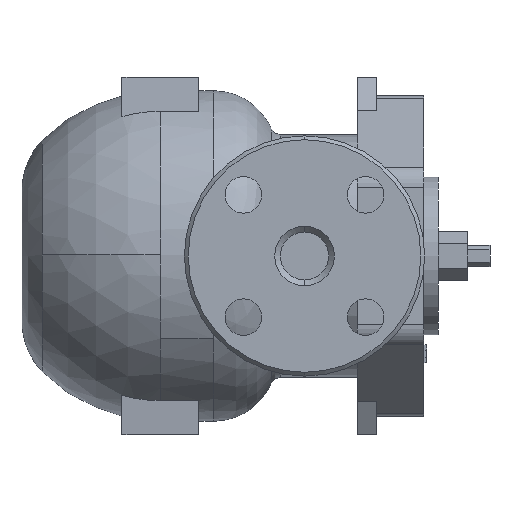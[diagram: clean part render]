
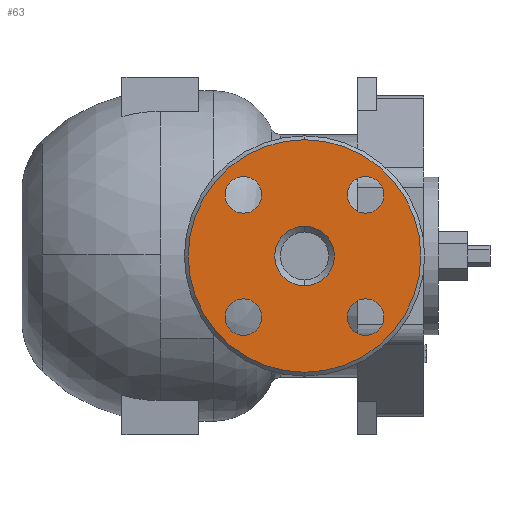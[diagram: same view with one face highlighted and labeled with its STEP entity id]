
A CAD part, left-side view. The second image highlights one B-rep face of the part: STEP entity #63.
In plain terms, the highlighted planar face has unit normal (-1, 0, 0).
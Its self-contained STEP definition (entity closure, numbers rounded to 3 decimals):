
#63=ADVANCED_FACE('',(#438,#439,#440,#441,#442,#443),#437,.T.);
#437=PLANE('',#1989);
#438=FACE_OUTER_BOUND('',#1990,.T.);
#439=FACE_BOUND('',#1991,.T.);
#440=FACE_BOUND('',#1992,.T.);
#441=FACE_BOUND('',#1993,.T.);
#442=FACE_BOUND('',#1994,.T.);
#443=FACE_BOUND('',#1995,.T.);
#1986=CARTESIAN_POINT('',(-135.,-114.789,-70.5));
#1987=DIRECTION('',(-1.,0.,0.));
#1988=DIRECTION('',(0.,0.,1.));
#1989=AXIS2_PLACEMENT_3D('',#1986,#1987,#1988);
#1990=EDGE_LOOP('',(#3440,#3441));
#1991=EDGE_LOOP('',(#3442,#3443));
#1992=EDGE_LOOP('',(#3444,#3445));
#1993=EDGE_LOOP('',(#3446,#3447));
#1994=EDGE_LOOP('',(#3448,#3449));
#1995=EDGE_LOOP('',(#3450,#3451));
#3440=ORIENTED_EDGE('',*,*,#4247,.T.);
#3441=ORIENTED_EDGE('',*,*,#4248,.T.);
#3442=ORIENTED_EDGE('',*,*,#4249,.T.);
#3443=ORIENTED_EDGE('',*,*,#4250,.T.);
#3444=ORIENTED_EDGE('',*,*,#4251,.T.);
#3445=ORIENTED_EDGE('',*,*,#4252,.T.);
#3446=ORIENTED_EDGE('',*,*,#4253,.T.);
#3447=ORIENTED_EDGE('',*,*,#4254,.T.);
#3448=ORIENTED_EDGE('',*,*,#4255,.T.);
#3449=ORIENTED_EDGE('',*,*,#4256,.T.);
#3450=ORIENTED_EDGE('',*,*,#4257,.T.);
#3451=ORIENTED_EDGE('',*,*,#4258,.T.);
#4247=EDGE_CURVE('',#5175,#5176,#5177,.T.);
#4248=EDGE_CURVE('',#5176,#5175,#5183,.T.);
#4249=EDGE_CURVE('',#5189,#5190,#5191,.T.);
#4250=EDGE_CURVE('',#5190,#5189,#5197,.T.);
#4251=EDGE_CURVE('',#5203,#5204,#5205,.T.);
#4252=EDGE_CURVE('',#5204,#5203,#5211,.T.);
#4253=EDGE_CURVE('',#5217,#5218,#5219,.T.);
#4254=EDGE_CURVE('',#5218,#5217,#5225,.T.);
#4255=EDGE_CURVE('',#5231,#5232,#5233,.T.);
#4256=EDGE_CURVE('',#5232,#5231,#5239,.T.);
#4257=EDGE_CURVE('',#5245,#5246,#5247,.T.);
#4258=EDGE_CURVE('',#5246,#5245,#5253,.T.);
#5175=VERTEX_POINT('',#7798);
#5176=VERTEX_POINT('',#7799);
#5177=CIRCLE('',#7803,60.5);
#5183=CIRCLE('',#7807,60.5);
#5189=VERTEX_POINT('',#7808);
#5190=VERTEX_POINT('',#7809);
#5191=CIRCLE('',#7813,9.5);
#5197=CIRCLE('',#7817,9.5);
#5203=VERTEX_POINT('',#7818);
#5204=VERTEX_POINT('',#7819);
#5205=CIRCLE('',#7823,9.5);
#5211=CIRCLE('',#7827,9.5);
#5217=VERTEX_POINT('',#7828);
#5218=VERTEX_POINT('',#7829);
#5219=CIRCLE('',#7833,15.5);
#5225=CIRCLE('',#7837,15.5);
#5231=VERTEX_POINT('',#7838);
#5232=VERTEX_POINT('',#7839);
#5233=CIRCLE('',#7843,9.5);
#5239=CIRCLE('',#7847,9.5);
#5245=VERTEX_POINT('',#7848);
#5246=VERTEX_POINT('',#7849);
#5247=CIRCLE('',#7853,9.5);
#5253=CIRCLE('',#7857,9.5);
#7798=CARTESIAN_POINT('',(-135.,0.,-60.5));
#7799=CARTESIAN_POINT('',(-135.,0.,60.5));
#7800=CARTESIAN_POINT('',(-135.,0.,0.));
#7801=DIRECTION('',(-1.,0.,0.));
#7802=DIRECTION('',(0.,0.,-1.));
#7803=AXIS2_PLACEMENT_3D('',#7800,#7801,#7802);
#7804=CARTESIAN_POINT('',(-135.,0.,0.));
#7805=DIRECTION('',(-1.,0.,0.));
#7806=DIRECTION('',(0.,0.,-1.));
#7807=AXIS2_PLACEMENT_3D('',#7804,#7805,#7806);
#7808=CARTESIAN_POINT('',(-135.,31.82,22.32));
#7809=CARTESIAN_POINT('',(-135.,31.82,41.32));
#7810=CARTESIAN_POINT('',(-135.,31.82,31.82));
#7811=DIRECTION('',(1.,0.,0.));
#7812=DIRECTION('',(0.,0.,-1.));
#7813=AXIS2_PLACEMENT_3D('',#7810,#7811,#7812);
#7814=CARTESIAN_POINT('',(-135.,31.82,31.82));
#7815=DIRECTION('',(1.,0.,0.));
#7816=DIRECTION('',(0.,0.,-1.));
#7817=AXIS2_PLACEMENT_3D('',#7814,#7815,#7816);
#7818=CARTESIAN_POINT('',(-135.,-31.82,-41.32));
#7819=CARTESIAN_POINT('',(-135.,-31.82,-22.32));
#7820=CARTESIAN_POINT('',(-135.,-31.82,-31.82));
#7821=DIRECTION('',(1.,0.,0.));
#7822=DIRECTION('',(0.,0.,-1.));
#7823=AXIS2_PLACEMENT_3D('',#7820,#7821,#7822);
#7824=CARTESIAN_POINT('',(-135.,-31.82,-31.82));
#7825=DIRECTION('',(1.,0.,0.));
#7826=DIRECTION('',(0.,0.,-1.));
#7827=AXIS2_PLACEMENT_3D('',#7824,#7825,#7826);
#7828=CARTESIAN_POINT('',(-135.,0.,-15.5));
#7829=CARTESIAN_POINT('',(-135.,0.,15.5));
#7830=CARTESIAN_POINT('',(-135.,0.,0.));
#7831=DIRECTION('',(1.,0.,0.));
#7832=DIRECTION('',(0.,0.,-1.));
#7833=AXIS2_PLACEMENT_3D('',#7830,#7831,#7832);
#7834=CARTESIAN_POINT('',(-135.,0.,0.));
#7835=DIRECTION('',(1.,0.,0.));
#7836=DIRECTION('',(0.,0.,-1.));
#7837=AXIS2_PLACEMENT_3D('',#7834,#7835,#7836);
#7838=CARTESIAN_POINT('',(-135.,-31.82,22.32));
#7839=CARTESIAN_POINT('',(-135.,-31.82,41.32));
#7840=CARTESIAN_POINT('',(-135.,-31.82,31.82));
#7841=DIRECTION('',(1.,0.,0.));
#7842=DIRECTION('',(0.,0.,-1.));
#7843=AXIS2_PLACEMENT_3D('',#7840,#7841,#7842);
#7844=CARTESIAN_POINT('',(-135.,-31.82,31.82));
#7845=DIRECTION('',(1.,0.,0.));
#7846=DIRECTION('',(0.,0.,-1.));
#7847=AXIS2_PLACEMENT_3D('',#7844,#7845,#7846);
#7848=CARTESIAN_POINT('',(-135.,31.82,-41.32));
#7849=CARTESIAN_POINT('',(-135.,31.82,-22.32));
#7850=CARTESIAN_POINT('',(-135.,31.82,-31.82));
#7851=DIRECTION('',(1.,0.,0.));
#7852=DIRECTION('',(0.,0.,-1.));
#7853=AXIS2_PLACEMENT_3D('',#7850,#7851,#7852);
#7854=CARTESIAN_POINT('',(-135.,31.82,-31.82));
#7855=DIRECTION('',(1.,0.,0.));
#7856=DIRECTION('',(0.,0.,-1.));
#7857=AXIS2_PLACEMENT_3D('',#7854,#7855,#7856);
